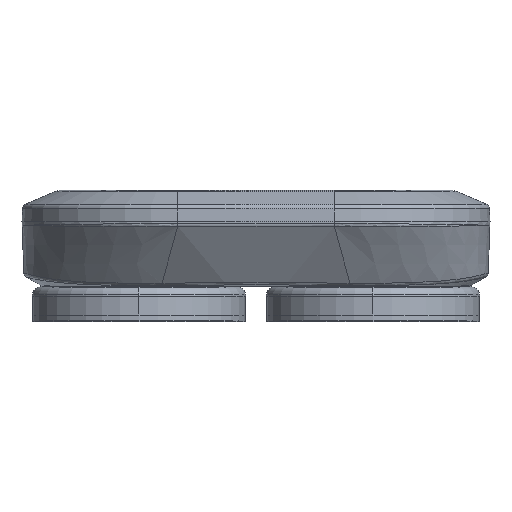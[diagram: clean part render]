
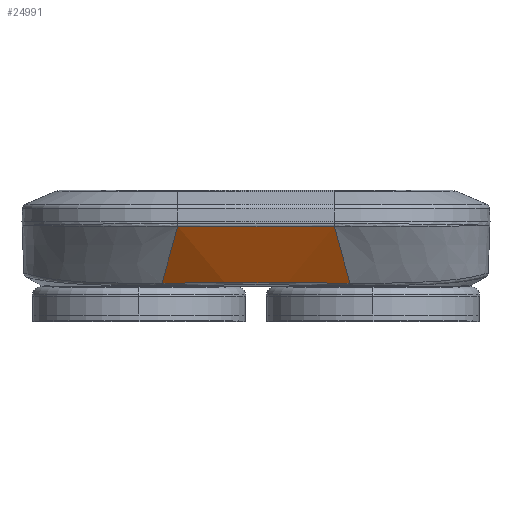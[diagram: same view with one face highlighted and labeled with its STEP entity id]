
A CAD part, left-side view. The second image highlights one B-rep face of the part: STEP entity #24991.
In plain terms, the highlighted free-form (B-spline) face has degree [3, 3] with [6, 4] control points.
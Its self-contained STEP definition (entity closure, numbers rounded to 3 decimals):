
#404=B_SPLINE_SURFACE_WITH_KNOTS('',3,3,((#123069,#123070,#123071,#123072),
(#123073,#123074,#123075,#123076),(#123077,#123078,#123079,#123080),(#123081,
#123082,#123083,#123084),(#123085,#123086,#123087,#123088),(#123089,#123090,
#123091,#123092)),.UNSPECIFIED.,.F.,.F.,.F.,(4,1,1,4),(4,4),(0.,0.019,
0.981,1.),(0.,1.),.UNSPECIFIED.);
#603=B_SPLINE_CURVE_WITH_KNOTS('',3,(#123046,#123047,#123048,#123049),
 .UNSPECIFIED.,.F.,.F.,(4,4),(0.,1.),.UNSPECIFIED.);
#604=B_SPLINE_CURVE_WITH_KNOTS('',3,(#123051,#123052,#123053,#123054,#123055,
#123056),.UNSPECIFIED.,.F.,.F.,(4,2,4),(0.,0.5,1.),.UNSPECIFIED.);
#605=B_SPLINE_CURVE_WITH_KNOTS('',3,(#123060,#123061,#123062,#123063),
 .UNSPECIFIED.,.F.,.F.,(4,4),(0.,1.),.UNSPECIFIED.);
#606=B_SPLINE_CURVE_WITH_KNOTS('',3,(#123065,#123066,#123067,#123068),
 .UNSPECIFIED.,.F.,.F.,(4,4),(0.,1.),.UNSPECIFIED.);
#3678=FACE_OUTER_BOUND('',#33565,.T.);
#7979=LINE('',#122993,#16319);
#7980=LINE('',#123058,#16320);
#16319=VECTOR('',#95190,1.);
#16320=VECTOR('',#95191,1.);
#24991=ADVANCED_FACE('',(#3678),#404,.T.);
#33565=EDGE_LOOP('',(#39722,#39723,#39724,#39725,#39726,#39727));
#39722=ORIENTED_EDGE('',*,*,#72193,.F.);
#39723=ORIENTED_EDGE('',*,*,#72192,.T.);
#39724=ORIENTED_EDGE('',*,*,#72194,.T.);
#39725=ORIENTED_EDGE('',*,*,#72195,.F.);
#39726=ORIENTED_EDGE('',*,*,#72196,.F.);
#39727=ORIENTED_EDGE('',*,*,#72197,.T.);
#63674=VERTEX_POINT('',#122983);
#63675=VERTEX_POINT('',#122992);
#63676=VERTEX_POINT('',#123050);
#63677=VERTEX_POINT('',#123057);
#63678=VERTEX_POINT('',#123059);
#63679=VERTEX_POINT('',#123064);
#72192=EDGE_CURVE('',#63674,#63675,#7979,.T.);
#72193=EDGE_CURVE('',#63674,#63676,#603,.T.);
#72194=EDGE_CURVE('',#63675,#63677,#604,.T.);
#72195=EDGE_CURVE('',#63678,#63677,#7980,.T.);
#72196=EDGE_CURVE('',#63679,#63678,#605,.T.);
#72197=EDGE_CURVE('',#63679,#63676,#606,.T.);
#95190=DIRECTION('',(0.571,0.219,-0.791));
#95191=DIRECTION('',(0.571,-0.219,-0.791));
#122983=CARTESIAN_POINT('',(-152.593,30.136,23.008));
#122992=CARTESIAN_POINT('',(-136.878,36.163,1.218));
#122993=CARTESIAN_POINT('',(-152.593,30.136,23.008));
#123046=CARTESIAN_POINT('',(-152.593,30.136,23.008));
#123047=CARTESIAN_POINT('',(-152.593,30.093,23.008));
#123048=CARTESIAN_POINT('',(-152.594,30.049,23.01));
#123049=CARTESIAN_POINT('',(-152.595,30.006,23.01));
#123050=CARTESIAN_POINT('',(-152.595,30.006,23.01));
#123051=CARTESIAN_POINT('',(-136.878,36.163,1.218));
#123052=CARTESIAN_POINT('',(-138.715,24.141,1.422));
#123053=CARTESIAN_POINT('',(-139.6,12.076,1.525));
#123054=CARTESIAN_POINT('',(-139.6,-12.058,1.525));
#123055=CARTESIAN_POINT('',(-138.717,-24.129,1.422));
#123056=CARTESIAN_POINT('',(-136.878,-36.164,1.217));
#123057=CARTESIAN_POINT('',(-136.878,-36.164,1.217));
#123058=CARTESIAN_POINT('',(-152.593,-30.136,23.008));
#123059=CARTESIAN_POINT('',(-152.593,-30.136,23.008));
#123060=CARTESIAN_POINT('',(-152.595,-30.006,23.01));
#123061=CARTESIAN_POINT('',(-152.594,-30.049,23.01));
#123062=CARTESIAN_POINT('',(-152.593,-30.093,23.008));
#123063=CARTESIAN_POINT('',(-152.593,-30.136,23.008));
#123064=CARTESIAN_POINT('',(-152.595,-30.006,23.01));
#123065=CARTESIAN_POINT('',(-152.595,-30.006,23.01));
#123066=CARTESIAN_POINT('',(-152.705,-9.992,23.06));
#123067=CARTESIAN_POINT('',(-152.705,9.992,23.06));
#123068=CARTESIAN_POINT('',(-152.595,30.006,23.01));
#123069=CARTESIAN_POINT('',(-152.942,-31.202,23.492));
#123070=CARTESIAN_POINT('',(-147.412,-33.377,15.921));
#123071=CARTESIAN_POINT('',(-141.882,-35.551,8.351));
#123072=CARTESIAN_POINT('',(-136.352,-37.725,0.78));
#123073=CARTESIAN_POINT('',(-152.942,-30.802,23.492));
#123074=CARTESIAN_POINT('',(-147.436,-32.95,15.921));
#123075=CARTESIAN_POINT('',(-141.93,-35.097,8.351));
#123076=CARTESIAN_POINT('',(-136.424,-37.245,0.78));
#123077=CARTESIAN_POINT('',(-152.943,-10.401,23.492));
#123078=CARTESIAN_POINT('',(-148.632,-11.185,15.921));
#123079=CARTESIAN_POINT('',(-144.321,-11.97,8.351));
#123080=CARTESIAN_POINT('',(-140.01,-12.754,0.78));
#123081=CARTESIAN_POINT('',(-152.943,10.401,23.492));
#123082=CARTESIAN_POINT('',(-148.632,11.185,15.921));
#123083=CARTESIAN_POINT('',(-144.321,11.97,8.351));
#123084=CARTESIAN_POINT('',(-140.01,12.754,0.78));
#123085=CARTESIAN_POINT('',(-152.942,30.802,23.492));
#123086=CARTESIAN_POINT('',(-147.436,32.95,15.921));
#123087=CARTESIAN_POINT('',(-141.93,35.097,8.351));
#123088=CARTESIAN_POINT('',(-136.424,37.245,0.78));
#123089=CARTESIAN_POINT('',(-152.942,31.202,23.492));
#123090=CARTESIAN_POINT('',(-147.412,33.377,15.921));
#123091=CARTESIAN_POINT('',(-141.882,35.551,8.351));
#123092=CARTESIAN_POINT('',(-136.352,37.725,0.78));
